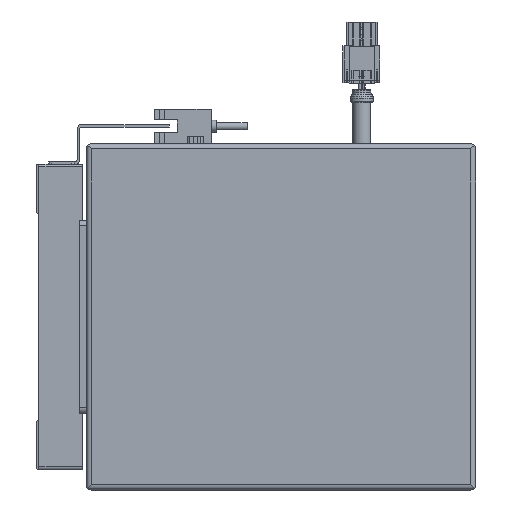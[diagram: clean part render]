
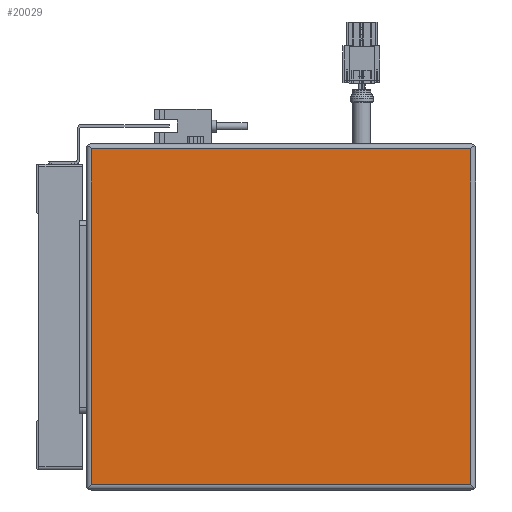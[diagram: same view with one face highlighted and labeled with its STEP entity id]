
A CAD part, left-side view. The second image highlights one B-rep face of the part: STEP entity #20029.
In plain terms, the highlighted planar face has unit normal (-1, 0, 0).
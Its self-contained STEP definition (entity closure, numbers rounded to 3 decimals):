
#4757=ORIENTED_EDGE('',*,*,#8483,.T.);
#4758=ORIENTED_EDGE('',*,*,#8484,.F.);
#4759=ORIENTED_EDGE('',*,*,#8485,.F.);
#4760=ORIENTED_EDGE('',*,*,#8486,.T.);
#8483=EDGE_CURVE('',#10690,#10691,#12813,.T.);
#8484=EDGE_CURVE('',#10692,#10691,#12814,.T.);
#8485=EDGE_CURVE('',#10693,#10692,#12815,.T.);
#8486=EDGE_CURVE('',#10693,#10690,#12816,.T.);
#10690=VERTEX_POINT('',#31967);
#10691=VERTEX_POINT('',#31968);
#10692=VERTEX_POINT('',#31970);
#10693=VERTEX_POINT('',#31972);
#12813=LINE('',#31966,#14918);
#12814=LINE('',#31969,#14919);
#12815=LINE('',#31971,#14920);
#12816=LINE('',#31973,#14921);
#14918=VECTOR('',#26036,1000.);
#14919=VECTOR('',#26037,1000.);
#14920=VECTOR('',#26038,1000.);
#14921=VECTOR('',#26039,1000.);
#16494=EDGE_LOOP('',(#4757,#4758,#4759,#4760));
#17951=FACE_BOUND('',#16494,.T.);
#19039=PLANE('',#21650);
#20029=ADVANCED_FACE('',(#17951),#19039,.F.);
#21650=AXIS2_PLACEMENT_3D('',#31965,#26034,#26035);
#26034=DIRECTION('',(1.,0.,0.));
#26035=DIRECTION('',(0.,0.,-1.));
#26036=DIRECTION('',(0.,-1.,0.));
#26037=DIRECTION('',(0.,0.,-1.));
#26038=DIRECTION('',(0.,-1.,0.));
#26039=DIRECTION('',(0.,0.,-1.));
#31965=CARTESIAN_POINT('',(-52.,2.,65.5));
#31966=CARTESIAN_POINT('',(-52.,152.,-65.5));
#31967=CARTESIAN_POINT('',(-52.,150.,-65.5));
#31968=CARTESIAN_POINT('',(-52.,2.,-65.5));
#31969=CARTESIAN_POINT('',(-52.,2.,67.5));
#31970=CARTESIAN_POINT('',(-52.,2.,65.5));
#31971=CARTESIAN_POINT('',(-52.,152.,65.5));
#31972=CARTESIAN_POINT('',(-52.,150.,65.5));
#31973=CARTESIAN_POINT('',(-52.,150.,67.5));
